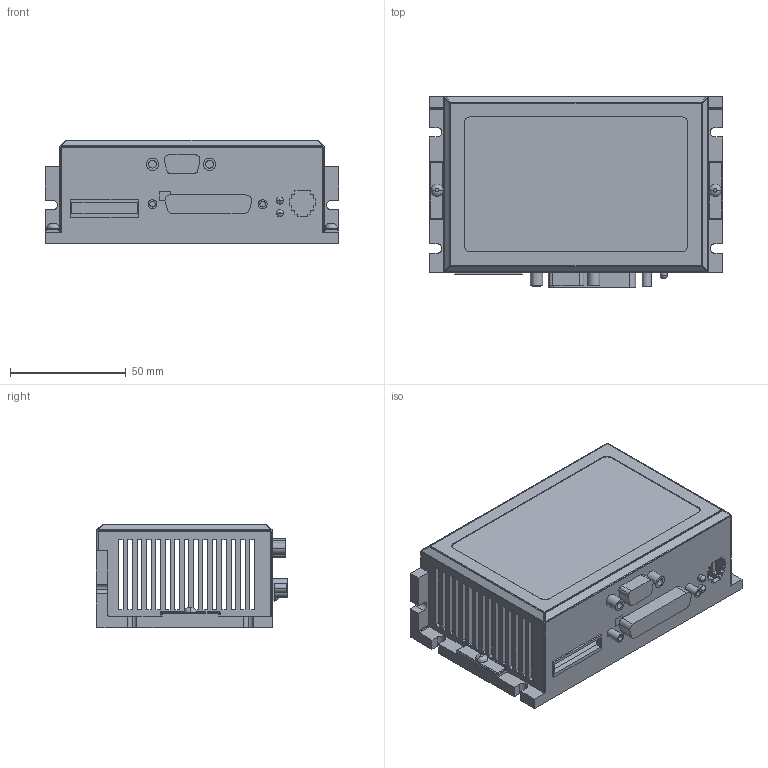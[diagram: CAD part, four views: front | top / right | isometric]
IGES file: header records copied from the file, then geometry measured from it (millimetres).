
Start section:  PTC IGES file: cu_smd-7613-7614-7615-7616.igs
Global section: file name: cu_smd-7613-7614-7615-7616.igs; native system: Creo Parametric by Parametric Technology Corporation; preprocessor: 2014000; author: jbuhisan; organization: Unknown; date: 20140801.153305; units: centimetre
Bounding box: 127 x 82.77 x 45.01 mm (x, y, z)
Surface area: 67763 mm2 (no closed solid volume)
Topology: 0 solids, 0 shells, 402 faces, 2184 edges, 2172 vertices
Faces by surface type: bspline 238, revolution 163, extrusion 1
